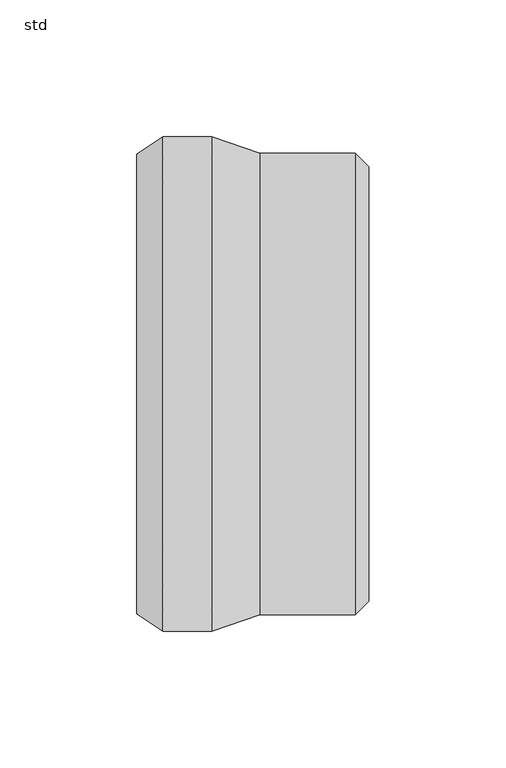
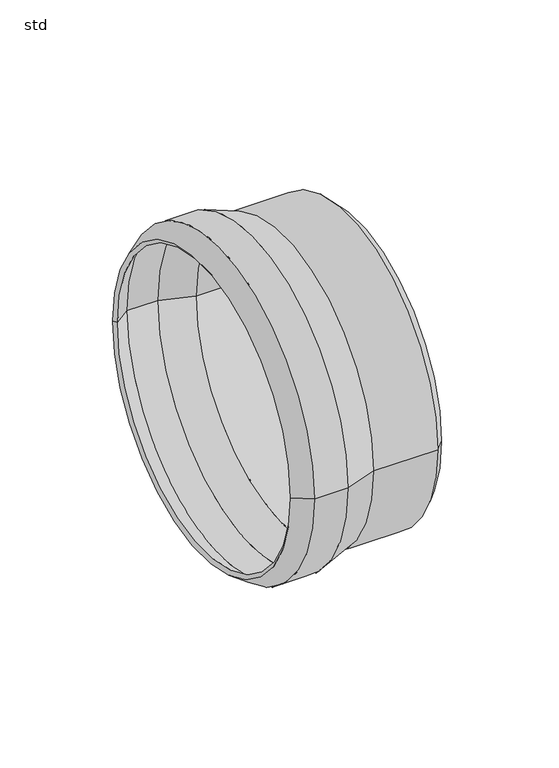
"""IFC4 building model written with IfcOpenShell, lengths in millimetres: pipe fitting geometry, PIF_ST_UN_GM-X pipe end_ACO : std."""

from ifc_helpers import new_model, si_unit, frame, origin, place, context, project, spatial, polyline, circle_curve, source, transform, mapped, element, save
from ifc_brep_helpers import plane_surface, cylinder_surface, revolved_surface, advanced_brep


def std_369a79f5(model_context):
    return source(origin(), model_context, "Body", "AdvancedBrep", [
        advanced_brep(
        [(-52.5, 90.5, 0.0), (-52.5, -90.5, 0.0), (-70.5, -90.5, 0.0), (-70.5, 90.5, 0.0), (-35.0, 84.5, 0.0), (-35.0, -84.5, 0.0), (-80.0, -84.0, 0.0), (-80.0, 84.0, 0.0), (0.0, 84.5, 0.0), (0.0, -84.5, 0.0), (5.0, 79.5, 0.0), (5.0, -79.5, 0.0), (0.0, 79.5, 0.0), (0.0, -79.5, 0.0), (-35.4166667, 82.0, 0.0), (-35.4166667, -82.0, 0.0), (0.0, -82.0, 0.0), (0.0, 82.0, 0.0), (-52.9166667, 88.0, 0.0), (-52.9166667, -88.0, 0.0), (-69.7265906, 88.0, 0.0), (-69.7265906, -88.0, 0.0), (-78.5882902, 81.9367318, 0.0), (-78.5882902, -81.9367318, 0.0)],
        [
            (0, 1, circle_curve(frame((-52.5, 0.0, 0.0), z_axis=(-1.0, 0.0, 0.0), x_axis=(0.0, -1.0, 0.0)), 90.5)),
            (1, 2),
            (2, 3, circle_curve(frame((-70.5, 0.0, 0.0), z_axis=(1.0, 0.0, 0.0), x_axis=(0.0, -1.0, 0.0)), 90.5)),
            (3, 0),
            (1, 0, circle_curve(frame((-52.5, 0.0, 0.0), z_axis=(-1.0, 0.0, 0.0), x_axis=(0.0, -1.0, 0.0)), 90.5)),
            (3, 2, circle_curve(frame((-70.5, 0.0, 0.0), z_axis=(1.0, 0.0, 0.0), x_axis=(0.0, -1.0, 0.0)), 90.5)),
            (4, 5, circle_curve(frame((-35.0, 0.0, 0.0), z_axis=(-1.0, 0.0, 0.0), x_axis=(0.0, -1.0, 0.0)), 84.5)),
            (5, 1),
            (0, 4),
            (5, 4, circle_curve(frame((-35.0, 0.0, 0.0), z_axis=(-1.0, 0.0, 0.0), x_axis=(0.0, -1.0, 0.0)), 84.5)),
            (2, 6),
            (6, 7, circle_curve(frame((-80.0, 0.0, 0.0), z_axis=(1.0, 0.0, 0.0), x_axis=(0.0, -1.0, 0.0)), 84.0)),
            (7, 3),
            (7, 6, circle_curve(frame((-80.0, 0.0, 0.0), z_axis=(1.0, 0.0, 0.0), x_axis=(0.0, -1.0, 0.0)), 84.0)),
            (8, 9, circle_curve(frame((0.0, 0.0, 0.0), z_axis=(-1.0, 0.0, 0.0), x_axis=(0.0, -1.0, 0.0)), 84.5)),
            (9, 5),
            (4, 8),
            (9, 8, circle_curve(frame((0.0, 0.0, 0.0), z_axis=(-1.0, 0.0, 0.0), x_axis=(0.0, -1.0, 0.0)), 84.5)),
            (10, 11, circle_curve(frame((5.0, 0.0, 0.0), z_axis=(-1.0, 0.0, 0.0), x_axis=(0.0, -1.0, 0.0)), 79.5)),
            (11, 9),
            (8, 10),
            (11, 10, circle_curve(frame((5.0, 0.0, 0.0), z_axis=(-1.0, 0.0, 0.0), x_axis=(0.0, -1.0, 0.0)), 79.5)),
            (12, 13, circle_curve(frame((0.0, 0.0, 0.0), z_axis=(-1.0, 0.0, 0.0), x_axis=(0.0, -1.0, 0.0)), 79.5)),
            (13, 11),
            (10, 12),
            (13, 12, circle_curve(frame((0.0, 0.0, 0.0), z_axis=(-1.0, 0.0, 0.0), x_axis=(0.0, -1.0, 0.0)), 79.5)),
            (14, 15, circle_curve(frame((-35.4166667, 0.0, 0.0), z_axis=(-1.0, 0.0, 0.0), x_axis=(0.0, -1.0, 0.0)), 82.0)),
            (15, 16),
            (16, 17, circle_curve(frame((0.0, 0.0, 0.0), z_axis=(1.0, 0.0, 0.0), x_axis=(0.0, -1.0, 0.0)), 82.0)),
            (17, 14),
            (15, 14, circle_curve(frame((-35.4166667, 0.0, 0.0), z_axis=(-1.0, 0.0, 0.0), x_axis=(0.0, -1.0, 0.0)), 82.0)),
            (17, 16, circle_curve(frame((0.0, 0.0, 0.0), z_axis=(1.0, 0.0, 0.0), x_axis=(0.0, -1.0, 0.0)), 82.0)),
            (18, 19, circle_curve(frame((-52.9166667, 0.0, 0.0), z_axis=(-1.0, 0.0, 0.0), x_axis=(0.0, -1.0, 0.0)), 88.0)),
            (19, 15),
            (14, 18),
            (19, 18, circle_curve(frame((-52.9166667, 0.0, 0.0), z_axis=(-1.0, 0.0, 0.0), x_axis=(0.0, -1.0, 0.0)), 88.0)),
            (20, 21, circle_curve(frame((-69.7265906, 0.0, 0.0), z_axis=(-1.0, 0.0, 0.0), x_axis=(0.0, -1.0, 0.0)), 88.0)),
            (21, 19),
            (18, 20),
            (21, 20, circle_curve(frame((-69.7265906, 0.0, 0.0), z_axis=(-1.0, 0.0, 0.0), x_axis=(0.0, -1.0, 0.0)), 88.0)),
            (22, 23, circle_curve(frame((-78.5882902, 0.0, 0.0), z_axis=(-1.0, 0.0, 0.0), x_axis=(0.0, -1.0, 0.0)), 81.9367318)),
            (23, 21),
            (20, 22),
            (23, 22, circle_curve(frame((-78.5882902, 0.0, 0.0), z_axis=(-1.0, 0.0, 0.0), x_axis=(0.0, -1.0, 0.0)), 81.9367318)),
            (6, 23),
            (22, 7),
            (16, 13),
            (12, 17),
        ],
        [
            cylinder_surface(frame((-76.6444117, 0.0, 0.0), z_axis=(1.0, 0.0, 0.0), x_axis=(0.0, -1.0, 0.0)), 90.5),
            revolved_surface(polyline([(-52.5, -90.5, 0.0), (-35.0, -84.5, 0.0)]), (-76.6444117, 0.0, 0.0), (1.0, 0.0, 0.0)),
            revolved_surface(polyline([(-80.0, -84.0, 0.0), (-70.5, -90.5, 0.0)]), (-76.6444117, 0.0, 0.0), (1.0, 0.0, 0.0)),
            cylinder_surface(frame((-76.6444117, 0.0, 0.0), z_axis=(1.0, 0.0, 0.0), x_axis=(0.0, -1.0, 0.0)), 84.5),
            revolved_surface(polyline([(0.0, -84.5, 0.0), (5.0, -79.5, 0.0)]), (-76.6444117, 0.0, 0.0), (1.0, 0.0, 0.0)),
            revolved_surface(polyline([(5.0, -79.5, 0.0), (0.0, -79.5, 0.0)]), (-76.6444117, 0.0, 0.0), (1.0, 0.0, 0.0)),
            revolved_surface(polyline([(0.0, -82.0, 0.0), (-35.4166667, -82.0, 0.0)]), (-76.6444117, 0.0, 0.0), (1.0, 0.0, 0.0)),
            revolved_surface(polyline([(-35.4166667, -82.0, 0.0), (-52.9166667, -88.0, 0.0)]), (-76.6444117, 0.0, 0.0), (1.0, 0.0, 0.0)),
            revolved_surface(polyline([(-52.9166667, -88.0, 0.0), (-69.7265906, -88.0, 0.0)]), (-76.6444117, 0.0, 0.0), (1.0, 0.0, 0.0)),
            revolved_surface(polyline([(-69.7265906, -88.0, 0.0), (-78.5882902, -81.9367318, 0.0)]), (-76.6444117, 0.0, 0.0), (1.0, 0.0, 0.0)),
            revolved_surface(polyline([(-78.5882902, -81.9367318, 0.0), (-80.0, -84.0, 0.0)]), (-76.6444117, 0.0, 0.0), (1.0, 0.0, 0.0)),
            plane_surface(frame((0.0, 0.0, 0.0), z_axis=(-1.0, 0.0, 0.0), x_axis=(0.0, -1.0, 0.0))),
        ],
        [
            (0, [[1, 2, 3, 4]]),
            (0, [[5, -4, 6, -2]]),
            (1, [[7, 8, -1, 9]]),
            (1, [[10, -9, -5, -8]]),
            (2, [[-3, 11, 12, 13]]),
            (2, [[-6, -13, 14, -11]]),
            (3, [[15, 16, -7, 17]]),
            (3, [[18, -17, -10, -16]]),
            (4, [[19, 20, -15, 21]]),
            (4, [[22, -21, -18, -20]]),
            (5, [[23, 24, -19, 25]]),
            (5, [[26, -25, -22, -24]]),
            (6, [[27, 28, 29, 30]]),
            (6, [[31, -30, 32, -28]]),
            (7, [[33, 34, -27, 35]]),
            (7, [[36, -35, -31, -34]]),
            (8, [[37, 38, -33, 39]]),
            (8, [[40, -39, -36, -38]]),
            (9, [[41, 42, -37, 43]]),
            (9, [[44, -43, -40, -42]]),
            (10, [[-12, 45, -41, 46]]),
            (10, [[-14, -46, -44, -45]]),
            (11, [[-29, 47, -23, 48]]),
            (11, [[-32, -48, -26, -47]]),
        ],
    ),
    ])


if __name__ == "__main__":
    model = new_model("IFC4")
    model_context = context("Model", 3, world=origin())
    ifc_project = project(units=[si_unit("LENGTHUNIT", "METRE", prefix="MILLI")], contexts=[model_context])
    site = spatial("IfcSite", under=ifc_project)
    building = spatial("IfcBuilding", under=site)
    placement = place(None, origin())
    std_shape = std_369a79f5(model_context)
    element("IfcPipeFitting", 1, ObjectType="PIF_ST_UN_GM-X pipe end_ACO : std", at=placement, inside=building, context=model_context, shape_type="MappedRepresentation", body=[
        mapped(std_shape, transform((0.0, 0.0, 0.0), x_axis=(1.0, 0.0, 0.0), y_axis=(0.0, 1.0, 0.0), z_axis=(0.0, 0.0, 1.0))),
    ])
    save(model, "model.ifc")
